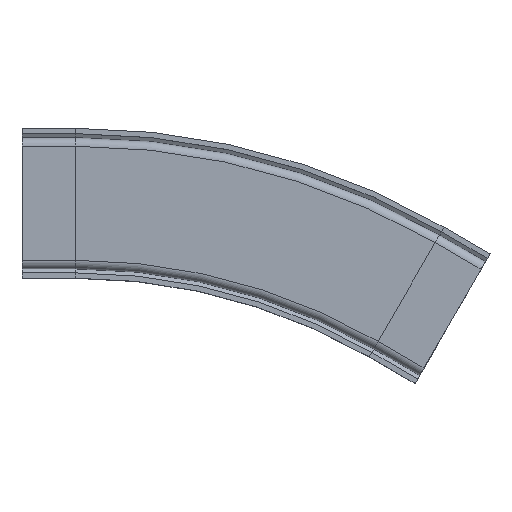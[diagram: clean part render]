
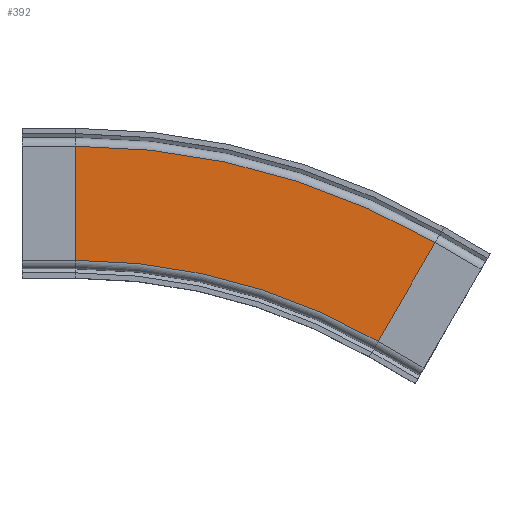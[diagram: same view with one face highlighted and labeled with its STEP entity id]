
A CAD part, top view. The second image highlights one B-rep face of the part: STEP entity #392.
In plain terms, the highlighted planar face has unit normal (0, 0, 1).
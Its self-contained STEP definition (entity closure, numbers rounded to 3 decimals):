
#98 = ORIENTED_EDGE ( 'NONE', *, *, #3478, .F. ) ;
#392 = ADVANCED_FACE ( 'NONE', ( #2899 ), #3005, .F. ) ;
#686 = ORIENTED_EDGE ( 'NONE', *, *, #3601, .T. ) ;
#710 = CARTESIAN_POINT ( 'NONE',  ( 40., 0., 42.5 ) ) ;
#754 = ORIENTED_EDGE ( 'NONE', *, *, #3008, .T. ) ;
#839 = AXIS2_PLACEMENT_3D ( 'NONE', #2508, #1151, #3000 ) ;
#876 = CARTESIAN_POINT ( 'NONE',  ( 40., -500., 42.5 ) ) ;
#1151 = DIRECTION ( 'NONE',  ( 0., 0., 1. ) ) ;
#1247 = DIRECTION ( 'NONE',  ( -1., 0., 0. ) ) ;
#1357 = DIRECTION ( 'NONE',  ( 1., 0., 0. ) ) ;
#1542 = VERTEX_POINT ( 'NONE', #4483 ) ;
#1887 = VECTOR ( 'NONE', #3968, 1000. ) ;
#2071 = EDGE_CURVE ( 'NONE', #2896, #1542, #2324, .T. ) ;
#2107 = EDGE_LOOP ( 'NONE', ( #4148, #98, #754, #686 ) ) ;
#2126 = CARTESIAN_POINT ( 'NONE',  ( 268.5, -104.226, 42.5 ) ) ;
#2227 = CIRCLE ( 'NONE', #3681, 543. ) ;
#2324 = LINE ( 'NONE', #710, #3955 ) ;
#2508 = CARTESIAN_POINT ( 'NONE',  ( 40., -500., 42.5 ) ) ;
#2609 = CARTESIAN_POINT ( 'NONE',  ( 268.5, -104.226, 42.5 ) ) ;
#2896 = VERTEX_POINT ( 'NONE', #3507 ) ;
#2899 = FACE_OUTER_BOUND ( 'NONE', #2107, .T. ) ;
#3000 = DIRECTION ( 'NONE',  ( 1., 0., 0. ) ) ;
#3005 = PLANE ( 'NONE',  #4080 ) ;
#3008 = EDGE_CURVE ( 'NONE', #4561, #3573, #5358, .T. ) ;
#3478 = EDGE_CURVE ( 'NONE', #4561, #1542, #4892, .T. ) ;
#3507 = CARTESIAN_POINT ( 'NONE',  ( 40., 43., 42.5 ) ) ;
#3573 = VERTEX_POINT ( 'NONE', #4369 ) ;
#3601 = EDGE_CURVE ( 'NONE', #3573, #2896, #2227, .T. ) ;
#3681 = AXIS2_PLACEMENT_3D ( 'NONE', #876, #3953, #1357 ) ;
#3893 = DIRECTION ( 'NONE',  ( 0., 0., -1. ) ) ;
#3953 = DIRECTION ( 'NONE',  ( 0., 0., 1. ) ) ;
#3955 = VECTOR ( 'NONE', #4664, 1000. ) ;
#3968 = DIRECTION ( 'NONE',  ( 0.5, 0.866, 0. ) ) ;
#4080 = AXIS2_PLACEMENT_3D ( 'NONE', #2126, #3893, #1247 ) ;
#4148 = ORIENTED_EDGE ( 'NONE', *, *, #2071, .T. ) ;
#4369 = CARTESIAN_POINT ( 'NONE',  ( 311.5, -29.748, 42.5 ) ) ;
#4483 = CARTESIAN_POINT ( 'NONE',  ( 40., -43., 42.5 ) ) ;
#4561 = VERTEX_POINT ( 'NONE', #2609 ) ;
#4664 = DIRECTION ( 'NONE',  ( 0., -1., 0. ) ) ;
#4829 = CARTESIAN_POINT ( 'NONE',  ( 268.5, -104.226, 42.5 ) ) ;
#4892 = CIRCLE ( 'NONE', #839, 457. ) ;
#5358 = LINE ( 'NONE', #4829, #1887 ) ;
